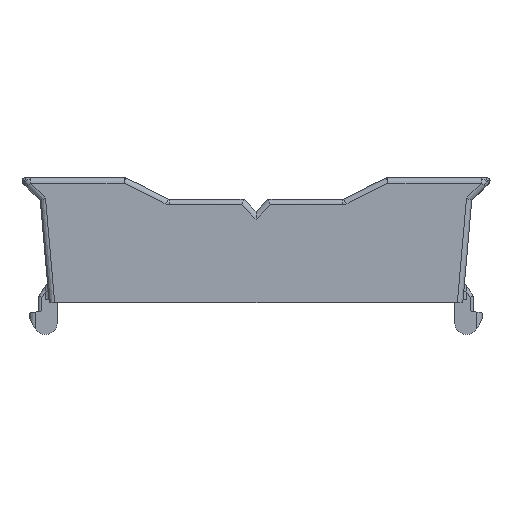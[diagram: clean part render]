
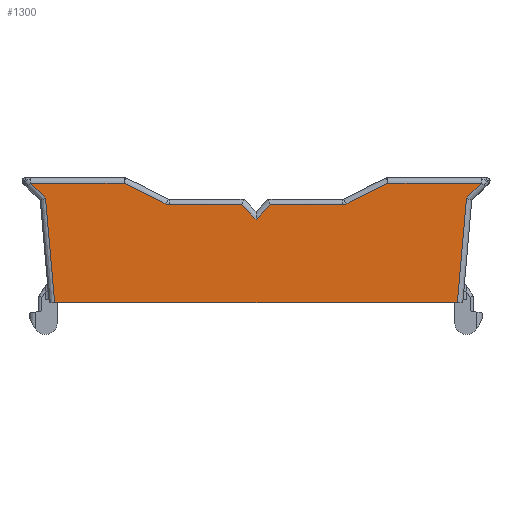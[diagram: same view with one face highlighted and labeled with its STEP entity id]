
A CAD part, left-side view. The second image highlights one B-rep face of the part: STEP entity #1300.
In plain terms, the highlighted planar face has unit normal (-1, 0, 0).
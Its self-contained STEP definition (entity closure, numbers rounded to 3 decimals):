
#10=CARTESIAN_POINT('',(-145.052,-120.,
0.7));
#20=DIRECTION('',(-1.,0.,0.));
#30=DIRECTION('',(0.,-1.,0.));
#40=AXIS2_PLACEMENT_3D('',#10,#20,#30);
#50=PLANE('',#40);
#60=CARTESIAN_POINT('',(-145.052,-129.453,
3.9));
#70=DIRECTION('',(1.,0.,0.));
#80=DIRECTION('',(0.,1.,0.));
#90=AXIS2_PLACEMENT_3D('',#60,#70,#80);
#100=CIRCLE('',#90,0.7);
#110=CARTESIAN_POINT('',(-145.052,-129.766,
3.274));
#120=VERTEX_POINT('',#110);
#130=CARTESIAN_POINT('',(-145.052,-129.453,
3.2));
#140=VERTEX_POINT('',#130);
#150=EDGE_CURVE('',#120,#140,#100,.T.);
#160=ORIENTED_EDGE('',*,*,#150,.T.);
#170=CARTESIAN_POINT('',(-145.052,-120.,
-1.609));
#180=DIRECTION('',(0.,-0.894,0.447));
#190=VECTOR('',#180,1.);
#200=LINE('',#170,#190);
#210=CARTESIAN_POINT('',(-145.052,-133.618,
5.2));
#220=VERTEX_POINT('',#210);
#230=EDGE_CURVE('',#120,#220,#200,.T.);
#240=ORIENTED_EDGE('',*,*,#230,.F.);
#250=CARTESIAN_POINT('',(-145.052,-120.,
5.2));
#260=DIRECTION('',(0.,1.,0.));
#270=VECTOR('',#260,1.);
#280=LINE('',#250,#270);
#290=CARTESIAN_POINT('',(-145.052,-142.217,
5.2));
#300=VERTEX_POINT('',#290);
#310=EDGE_CURVE('',#300,#220,#280,.T.);
#320=ORIENTED_EDGE('',*,*,#310,.T.);
#330=CARTESIAN_POINT('',(-145.052,-120.,
-17.017));
#340=DIRECTION('',(0.,-0.707,0.707));
#350=VECTOR('',#340,1.);
#360=LINE('',#330,#350);
#370=CARTESIAN_POINT('',(-145.052,-140.84,
3.823));
#380=VERTEX_POINT('',#370);
#390=EDGE_CURVE('',#380,#300,#360,.T.);
#400=ORIENTED_EDGE('',*,*,#390,.T.);
#410=CARTESIAN_POINT('',(-145.052,-140.567,
0.7));
#420=DIRECTION('',(-0.,0.087,-0.996));
#430=VECTOR('',#420,1.);
#440=LINE('',#410,#430);
#450=CARTESIAN_POINT('',(-145.052,-139.998,
-5.8));
#460=VERTEX_POINT('',#450);
#470=EDGE_CURVE('',#380,#460,#440,.T.);
#480=ORIENTED_EDGE('',*,*,#470,.F.);
#490=CARTESIAN_POINT('',(-145.052,-120.,
-5.8));
#500=DIRECTION('',(0.,1.,0.));
#510=VECTOR('',#500,1.);
#520=LINE('',#490,#510);
#530=CARTESIAN_POINT('',(-145.052,-103.002,
-5.8));
#540=VERTEX_POINT('',#530);
#550=EDGE_CURVE('',#460,#540,#520,.T.);
#560=ORIENTED_EDGE('',*,*,#550,.F.);
#570=CARTESIAN_POINT('',(-145.052,-102.433,
0.7));
#580=DIRECTION('',(0.,-0.087,-0.996));
#590=VECTOR('',#580,1.);
#600=LINE('',#570,#590);
#610=CARTESIAN_POINT('',(-145.052,-102.16,
3.823));
#620=VERTEX_POINT('',#610);
#630=EDGE_CURVE('',#620,#540,#600,.T.);
#640=ORIENTED_EDGE('',*,*,#630,.T.);
#650=CARTESIAN_POINT('',(-145.052,-120.,
-14.017));
#660=DIRECTION('',(0.,0.707,0.707));
#670=VECTOR('',#660,1.);
#680=LINE('',#650,#670);
#690=CARTESIAN_POINT('',(-145.052,-100.783,
5.2));
#700=VERTEX_POINT('',#690);
#710=EDGE_CURVE('',#620,#700,#680,.T.);
#720=ORIENTED_EDGE('',*,*,#710,.F.);
#730=CARTESIAN_POINT('',(-145.052,-120.,
5.2));
#740=DIRECTION('',(0.,-1.,0.));
#750=VECTOR('',#740,1.);
#760=LINE('',#730,#750);
#770=CARTESIAN_POINT('',(-145.052,-109.382,
5.2));
#780=VERTEX_POINT('',#770);
#790=EDGE_CURVE('',#700,#780,#760,.T.);
#800=ORIENTED_EDGE('',*,*,#790,.F.);
#810=CARTESIAN_POINT('',(-145.052,-120.,
-0.109));
#820=DIRECTION('',(0.,-0.894,-0.447));
#830=VECTOR('',#820,1.);
#840=LINE('',#810,#830);
#850=CARTESIAN_POINT('',(-145.052,-113.234,
3.274));
#860=VERTEX_POINT('',#850);
#870=EDGE_CURVE('',#780,#860,#840,.T.);
#880=ORIENTED_EDGE('',*,*,#870,.F.);
#890=CARTESIAN_POINT('',(-145.052,-113.547,
3.9));
#900=DIRECTION('',(1.,0.,0.));
#910=DIRECTION('',(0.,1.,0.));
#920=AXIS2_PLACEMENT_3D('',#890,#900,#910);
#930=CIRCLE('',#920,0.7);
#940=CARTESIAN_POINT('',(-145.052,-113.547,
3.2));
#950=VERTEX_POINT('',#940);
#960=EDGE_CURVE('',#950,#860,#930,.T.);
#970=ORIENTED_EDGE('',*,*,#960,.T.);
#980=CARTESIAN_POINT('',(-145.052,-120.,
3.2));
#990=DIRECTION('',(0.,-1.,0.));
#1000=VECTOR('',#990,1.);
#1010=LINE('',#980,#1000);
#1020=CARTESIAN_POINT('',(-145.052,-120.193,
3.2));
#1030=VERTEX_POINT('',#1020);
#1040=EDGE_CURVE('',#950,#1030,#1010,.T.);
#1050=ORIENTED_EDGE('',*,*,#1040,.F.);
#1060=CARTESIAN_POINT('',(-145.052,-122.693,
0.7));
#1070=DIRECTION('',(0.,-0.707,-0.707));
#1080=VECTOR('',#1070,1.);
#1090=LINE('',#1060,#1080);
#1100=CARTESIAN_POINT('',(-145.052,-121.5,
1.893));
#1110=VERTEX_POINT('',#1100);
#1120=EDGE_CURVE('',#1030,#1110,#1090,.T.);
#1130=ORIENTED_EDGE('',*,*,#1120,.F.);
#1140=CARTESIAN_POINT('',(-145.052,-120.307,
0.7));
#1150=DIRECTION('',(0.,-0.707,0.707));
#1160=VECTOR('',#1150,1.);
#1170=LINE('',#1140,#1160);
#1180=CARTESIAN_POINT('',(-145.052,-122.807,
3.2));
#1190=VERTEX_POINT('',#1180);
#1200=EDGE_CURVE('',#1110,#1190,#1170,.T.);
#1210=ORIENTED_EDGE('',*,*,#1200,.F.);
#1220=CARTESIAN_POINT('',(-145.052,-120.,
3.2));
#1230=DIRECTION('',(0.,1.,0.));
#1240=VECTOR('',#1230,1.);
#1250=LINE('',#1220,#1240);
#1260=EDGE_CURVE('',#140,#1190,#1250,.T.);
#1270=ORIENTED_EDGE('',*,*,#1260,.T.);
#1280=EDGE_LOOP('',(#1270,#1210,#1130,#1050,#970,#880,#800,#720,#640,
#560,#480,#400,#320,#240,#160));
#1290=FACE_OUTER_BOUND('',#1280,.T.);
#1300=ADVANCED_FACE('',(#1290),#50,.T.);
